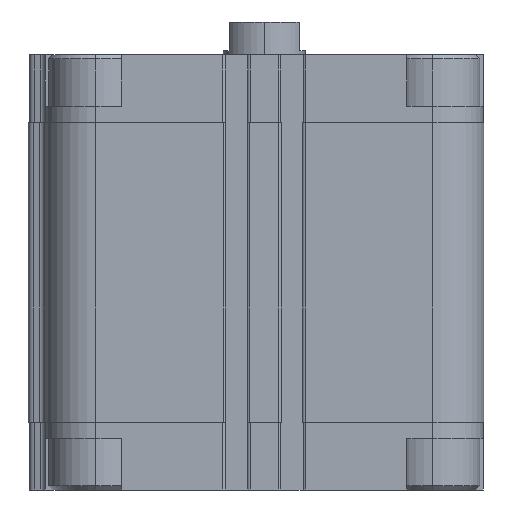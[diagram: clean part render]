
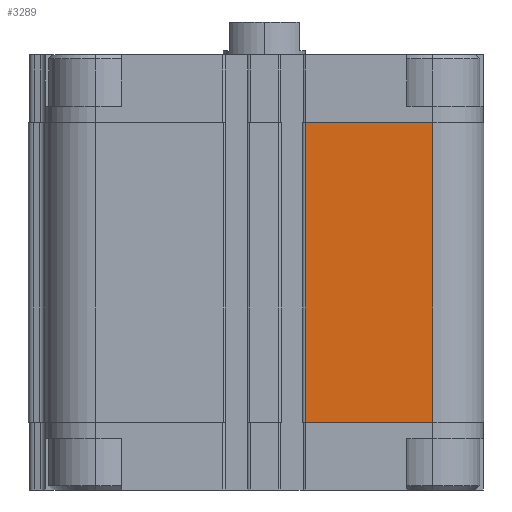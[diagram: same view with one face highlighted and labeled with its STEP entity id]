
A CAD part, left-side view. The second image highlights one B-rep face of the part: STEP entity #3289.
In plain terms, the highlighted planar face has unit normal (-1, 0, 0).
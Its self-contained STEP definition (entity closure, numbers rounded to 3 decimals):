
#306 = AXIS2_PLACEMENT_3D ( 'NONE', #3617, #745, #20039 ) ;
#541 = PLANE ( 'NONE',  #306 ) ;
#745 = DIRECTION ( 'NONE',  ( -1., 0., 0. ) ) ;
#1257 = EDGE_CURVE ( 'NONE', #3203, #11340, #8606, .T. ) ;
#1626 = LINE ( 'NONE', #8053, #12462 ) ;
#1773 = LINE ( 'NONE', #19693, #15976 ) ;
#1879 = CARTESIAN_POINT ( 'NONE',  ( -53.5, -41., -16.5 ) ) ;
#2587 = ORIENTED_EDGE ( 'NONE', *, *, #6915, .F. ) ;
#3203 = VERTEX_POINT ( 'NONE', #9720 ) ;
#3289 = ADVANCED_FACE ( 'NONE', ( #8557 ), #541, .T. ) ;
#3617 = CARTESIAN_POINT ( 'NONE',  ( -53.5, -9.95, -89.5 ) ) ;
#4148 = VERTEX_POINT ( 'NONE', #15280 ) ;
#4584 = VERTEX_POINT ( 'NONE', #16646 ) ;
#4790 = EDGE_CURVE ( 'NONE', #4148, #4584, #1773, .T. ) ;
#6915 = EDGE_CURVE ( 'NONE', #4584, #11340, #1626, .T. ) ;
#6977 = VECTOR ( 'NONE', #8501, 1000. ) ;
#7391 = EDGE_LOOP ( 'NONE', ( #2587, #12968, #9583, #15075 ) ) ;
#8053 = CARTESIAN_POINT ( 'NONE',  ( -53.5, -9.95, -16.5 ) ) ;
#8231 = LINE ( 'NONE', #12753, #10162 ) ;
#8501 = DIRECTION ( 'NONE',  ( 0., 0., 1. ) ) ;
#8557 = FACE_OUTER_BOUND ( 'NONE', #7391, .T. ) ;
#8606 = LINE ( 'NONE', #13642, #6977 ) ;
#9583 = ORIENTED_EDGE ( 'NONE', *, *, #13951, .T. ) ;
#9720 = CARTESIAN_POINT ( 'NONE',  ( -53.5, -41., -89.5 ) ) ;
#10162 = VECTOR ( 'NONE', #16125, 1000. ) ;
#11340 = VERTEX_POINT ( 'NONE', #1879 ) ;
#12462 = VECTOR ( 'NONE', #12894, 1000. ) ;
#12753 = CARTESIAN_POINT ( 'NONE',  ( -53.5, -9.95, -89.5 ) ) ;
#12894 = DIRECTION ( 'NONE',  ( 0., -1., 0. ) ) ;
#12968 = ORIENTED_EDGE ( 'NONE', *, *, #4790, .F. ) ;
#13642 = CARTESIAN_POINT ( 'NONE',  ( -53.5, -41., -89.5 ) ) ;
#13951 = EDGE_CURVE ( 'NONE', #4148, #3203, #8231, .T. ) ;
#15075 = ORIENTED_EDGE ( 'NONE', *, *, #1257, .T. ) ;
#15280 = CARTESIAN_POINT ( 'NONE',  ( -53.5, -9.95, -89.5 ) ) ;
#15976 = VECTOR ( 'NONE', #17684, 1000. ) ;
#16125 = DIRECTION ( 'NONE',  ( 0., -1., 0. ) ) ;
#16646 = CARTESIAN_POINT ( 'NONE',  ( -53.5, -9.95, -16.5 ) ) ;
#17684 = DIRECTION ( 'NONE',  ( 0., 0., 1. ) ) ;
#19693 = CARTESIAN_POINT ( 'NONE',  ( -53.5, -9.95, -89.5 ) ) ;
#20039 = DIRECTION ( 'NONE',  ( 0., -1., 0. ) ) ;
